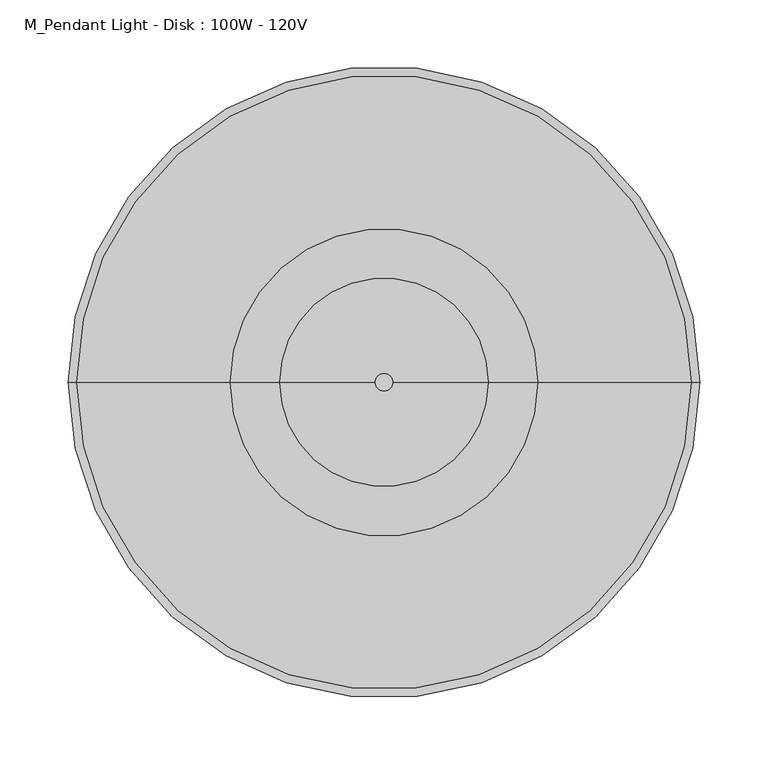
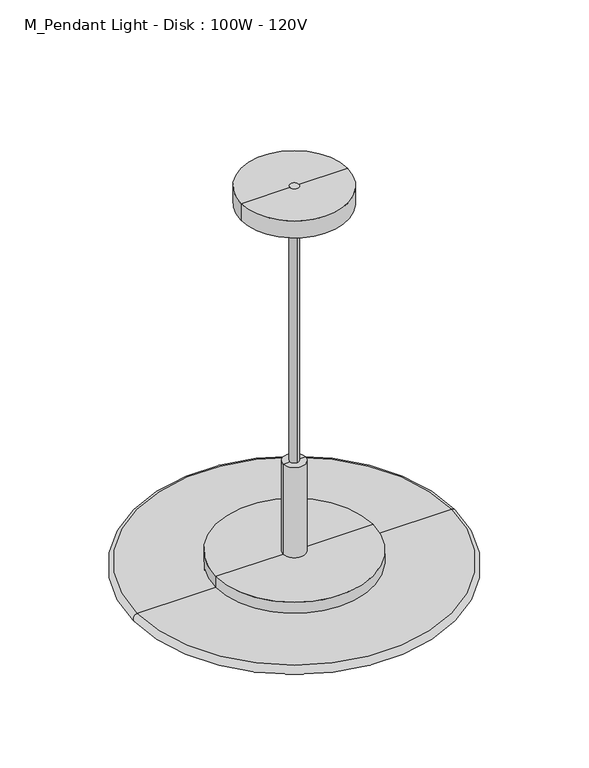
"""IFC4 building model written with IfcOpenShell, lengths in millimetres: light fixture geometry, M_Pendant Light - Disk : 100W - 120V."""

from ifc_helpers import new_model, si_unit, point, frame, origin, origin_2d, place, context, project, spatial, polyline, circle_curve, ellipse_curve, trimmed, segment, composite_curve, outline, extrude, source, transform, mapped, element, save
from ifc_brep_helpers import plane_surface, cylinder_surface, revolved_surface, advanced_brep


def m_pendant_light_disk_100w_120v_9a6b431c(model_context):
    return source(origin(), model_context, "Body", "SolidModel", [
        extrude(outline(composite_curve([segment(trimmed(circle_curve(origin_2d(), 112.5), [point((0.0, 112.5))], [point((0.0, -112.5))], False, "CARTESIAN"), True, "CONTINUOUS"), segment(trimmed(circle_curve(origin_2d(), 112.5), [point((0.0, -112.5))], [point((0.0, 112.5))], False, "CARTESIAN"), True, "CONTINUOUS")], self_intersect=False)), frame((0.0, 0.0, 1838.4000062), z_axis=(0.0, 0.0, 1.0), x_axis=(1.0, 0.0, 0.0)), (0.0, 0.0, 1.0), 12.7),
        advanced_brep(
        [(15.875, 0.0, 1886.475253), (-15.875, 0.0, 1886.475253), (-15.875, 0.0, 2022.55), (15.875, 0.0, 2022.55), (112.5, 0.0, 1886.475253), (-112.5, 0.0, 1886.475253), (112.5, 0.0, 1851.1000062), (-112.5, 0.0, 1851.1000062), (38.1, 0.0, 1851.1000062), (-38.1, 0.0, 1851.1000062), (38.1, 0.0, 1870.15), (-38.1, 0.0, 1870.15), (0.0, 0.0, 1870.15), (0.0, 0.0, 2022.55)],
        [
            (0, 1, circle_curve(frame((0.0, 0.0, 1886.475253), z_axis=(0.0, 0.0, 1.0), x_axis=(-1.0, 0.0, 0.0)), 15.875)),
            (1, 2),
            (2, 3, circle_curve(frame((0.0, 0.0, 2022.55), z_axis=(0.0, 0.0, -1.0), x_axis=(-1.0, 0.0, 0.0)), 15.875)),
            (3, 0),
            (1, 0, circle_curve(frame((0.0, 0.0, 1886.475253), z_axis=(0.0, 0.0, 1.0), x_axis=(-1.0, 0.0, 0.0)), 15.875)),
            (3, 2, circle_curve(frame((0.0, 0.0, 2022.55), z_axis=(0.0, 0.0, -1.0), x_axis=(-1.0, 0.0, 0.0)), 15.875)),
            (4, 5, circle_curve(frame((0.0, 0.0, 1886.475253), z_axis=(0.0, 0.0, 1.0), x_axis=(-1.0, 0.0, 0.0)), 112.5)),
            (5, 1),
            (0, 4),
            (5, 4, circle_curve(frame((0.0, 0.0, 1886.475253), z_axis=(0.0, 0.0, 1.0), x_axis=(-1.0, 0.0, 0.0)), 112.5)),
            (6, 7, circle_curve(frame((0.0, 0.0, 1851.1000062), z_axis=(0.0, 0.0, 1.0), x_axis=(-1.0, 0.0, 0.0)), 112.5)),
            (7, 5),
            (4, 6),
            (7, 6, circle_curve(frame((0.0, 0.0, 1851.1000062), z_axis=(0.0, 0.0, 1.0), x_axis=(-1.0, 0.0, 0.0)), 112.5)),
            (8, 9, circle_curve(frame((0.0, 0.0, 1851.1000062), z_axis=(0.0, 0.0, 1.0), x_axis=(-1.0, 0.0, 0.0)), 38.1)),
            (9, 7),
            (6, 8),
            (9, 8, circle_curve(frame((0.0, 0.0, 1851.1000062), z_axis=(0.0, 0.0, 1.0), x_axis=(-1.0, 0.0, 0.0)), 38.1)),
            (10, 11, circle_curve(frame((0.0, 0.0, 1870.15), z_axis=(0.0, 0.0, 1.0), x_axis=(-1.0, 0.0, 0.0)), 38.1)),
            (11, 9),
            (8, 10),
            (11, 10, circle_curve(frame((0.0, 0.0, 1870.15), z_axis=(0.0, 0.0, 1.0), x_axis=(-1.0, 0.0, 0.0)), 38.1)),
            (12, 11),
            (10, 12),
            (2, 13),
            (13, 3),
        ],
        [
            cylinder_surface(frame((0.0, 0.0, 2046.6629221), z_axis=(0.0, 0.0, -1.0), x_axis=(-1.0, 0.0, 0.0)), 15.875),
            plane_surface(frame((0.0, 0.0, 1886.475253), z_axis=(0.0, 0.0, 1.0), x_axis=(-1.0, 0.0, 0.0))),
            cylinder_surface(frame((0.0, 0.0, 2046.6629221), z_axis=(0.0, 0.0, -1.0), x_axis=(-1.0, 0.0, 0.0)), 112.5),
            plane_surface(frame((0.0, 0.0, 1851.1000062), z_axis=(0.0, 0.0, -1.0), x_axis=(-1.0, 0.0, 0.0))),
            revolved_surface(polyline([(-38.1, 0.0, 1851.1000062), (-38.1, 0.0, 1870.15)]), (0.0, 0.0, 2046.6629221), (0.0, 0.0, -1.0)),
            plane_surface(frame((0.0, 0.0, 1870.15), z_axis=(0.0, 0.0, -1.0), x_axis=(-1.0, 0.0, 0.0))),
            plane_surface(frame((0.0, 0.0, 2022.55), z_axis=(0.0, 0.0, 1.0), x_axis=(-1.0, 0.0, 0.0))),
        ],
        [
            (0, [[1, 2, 3, 4]]),
            (0, [[5, -4, 6, -2]]),
            (1, [[7, 8, -1, 9]]),
            (1, [[10, -9, -5, -8]]),
            (2, [[11, 12, -7, 13]]),
            (2, [[14, -13, -10, -12]]),
            (3, [[15, 16, -11, 17]]),
            (3, [[18, -17, -14, -16]]),
            (4, [[19, 20, -15, 21]]),
            (4, [[22, -21, -18, -20]]),
            (5, [[23, -19, 24]]),
            (5, [[-24, -22, -23]]),
            (6, [[-3, 25, 26]]),
            (6, [[-6, -26, -25]]),
        ],
    ),
        extrude(outline(composite_curve([segment(trimmed(circle_curve(origin_2d(), 6.35), [point((0.0, 6.35))], [point((0.0, -6.35))], False, "CARTESIAN"), True, "CONTINUOUS"), segment(trimmed(circle_curve(origin_2d(), 6.35), [point((0.0, -6.35))], [point((0.0, 6.35))], False, "CARTESIAN"), True, "CONTINUOUS")], self_intersect=False)), frame((0.0, 0.0, 1851.1000062), z_axis=(0.0, 0.0, 1.0), x_axis=(1.0, 0.0, 0.0)), (0.0, 0.0, 1.0), 587.3),
        advanced_brep(
        [(0.0, 0.0, 1857.45), (-225.0, 0.0, 1857.45), (225.0, 0.0, 1857.45), (225.0, 0.0, 1870.15), (-225.0, 0.0, 1870.15), (0.0, 0.0, 1870.15)],
        [
            (0, 1),
            (1, 2, circle_curve(frame((0.0, 0.0, 1857.45), z_axis=(0.0, 0.0, -1.0), x_axis=(-1.0, 0.0, 0.0)), 225.0)),
            (2, 0),
            (2, 1, circle_curve(frame((0.0, 0.0, 1857.45), z_axis=(0.0, 0.0, -1.0), x_axis=(-1.0, 0.0, 0.0)), 225.0)),
            (3, 4, circle_curve(frame((0.0, 0.0, 1870.15), z_axis=(0.0, 0.0, 1.0), x_axis=(-1.0, 0.0, 0.0)), 225.0)),
            (4, 5),
            (5, 3),
            (4, 3, circle_curve(frame((0.0, 0.0, 1870.15), z_axis=(0.0, 0.0, 1.0), x_axis=(-1.0, 0.0, 0.0)), 225.0)),
            (1, 4, circle_curve(frame((-225.0, 0.0, 1863.8), z_axis=(0.0, 1.0, 0.0), x_axis=(0.0, 0.0, -1.0)), 6.35)),
            (3, 2, circle_curve(frame((225.0, 0.0, 1863.8), z_axis=(0.0, 1.0, 0.0), x_axis=(0.0, 0.0, -1.0)), 6.35)),
        ],
        [
            plane_surface(frame((0.0, 0.0, 1857.45), z_axis=(0.0, 0.0, -1.0), x_axis=(-1.0, 0.0, 0.0))),
            plane_surface(frame((0.0, 0.0, 1870.15), z_axis=(0.0, 0.0, 1.0), x_axis=(-1.0, 0.0, 0.0))),
            revolved_surface(trimmed(ellipse_curve(frame((-225.0, 0.0, 1863.8), z_axis=(0.0, -1.0, 0.0), x_axis=(0.0, 0.0, -1.0)), 6.35, 6.35), [point((-225.0, 0.0, 1870.15))], [point((-225.0, 0.0, 1857.45))], True, "CARTESIAN"), (0.0, 0.0, 1935.2510876), (0.0, 0.0, -1.0)),
        ],
        [
            (0, [[1, 2, 3]]),
            (0, [[-3, 4, -1]]),
            (1, [[5, 6, 7]]),
            (1, [[8, -7, -6]]),
            (2, [[-2, 9, -5, 10]]),
            (2, [[-4, -10, -8, -9]]),
        ],
    ),
        advanced_brep(
        [(76.2, 0.0, 2413.0000062), (-76.2, 0.0, 2413.0000062), (-76.2, 0.0, 2438.4000062), (76.2, 0.0, 2438.4000062), (0.0, 0.0, 2377.4673627), (0.0, 0.0, 2438.4000062)],
        [
            (0, 1, circle_curve(frame((0.0, 0.0, 2413.0000062), z_axis=(0.0, 0.0, 1.0), x_axis=(-1.0, 0.0, 0.0)), 76.2)),
            (1, 2),
            (2, 3, circle_curve(frame((0.0, 0.0, 2438.4000062), z_axis=(0.0, 0.0, -1.0), x_axis=(-1.0, 0.0, 0.0)), 76.2)),
            (3, 0),
            (1, 0, circle_curve(frame((0.0, 0.0, 2413.0000062), z_axis=(0.0, 0.0, 1.0), x_axis=(-1.0, 0.0, 0.0)), 76.2)),
            (3, 2, circle_curve(frame((0.0, 0.0, 2438.4000062), z_axis=(0.0, 0.0, -1.0), x_axis=(-1.0, 0.0, 0.0)), 76.2)),
            (4, 1),
            (0, 4),
            (2, 5),
            (5, 3),
        ],
        [
            cylinder_surface(frame((0.0, 0.0, 2514.6000062), z_axis=(0.0, 0.0, -1.0), x_axis=(-1.0, 0.0, 0.0)), 76.2),
            revolved_surface(polyline([(-76.2, 0.0, 2413.0000062), (0.0, 0.0, 2377.4673627)]), (0.0, 0.0, 2514.6000062), (0.0, 0.0, -1.0)),
            plane_surface(frame((0.0, 0.0, 2438.4000062), z_axis=(0.0, 0.0, 1.0), x_axis=(-1.0, 0.0, 0.0))),
        ],
        [
            (0, [[1, 2, 3, 4]]),
            (0, [[5, -4, 6, -2]]),
            (1, [[7, -1, 8]]),
            (1, [[-8, -5, -7]]),
            (2, [[-3, 9, 10]]),
            (2, [[-6, -10, -9]]),
        ],
    ),
    ])


if __name__ == "__main__":
    model = new_model("IFC4")
    model_context = context("Model", 3, world=origin())
    ifc_project = project(units=[si_unit("LENGTHUNIT", "METRE", prefix="MILLI")], contexts=[model_context])
    site = spatial("IfcSite", under=ifc_project)
    building = spatial("IfcBuilding", under=site)
    placement = place(None, origin())
    m_pendant_light_disk_100w_120v_shape = m_pendant_light_disk_100w_120v_9a6b431c(model_context)
    element("IfcLightFixture", 1, ObjectType="M_Pendant Light - Disk : 100W - 120V", at=placement, inside=building, context=model_context, shape_type="MappedRepresentation", body=[
        mapped(m_pendant_light_disk_100w_120v_shape, transform((0.0, 0.0, 0.0), x_axis=(1.0, 0.0, 0.0), y_axis=(0.0, 1.0, 0.0), z_axis=(0.0, 0.0, 1.0))),
    ])
    save(model, "model.ifc")
